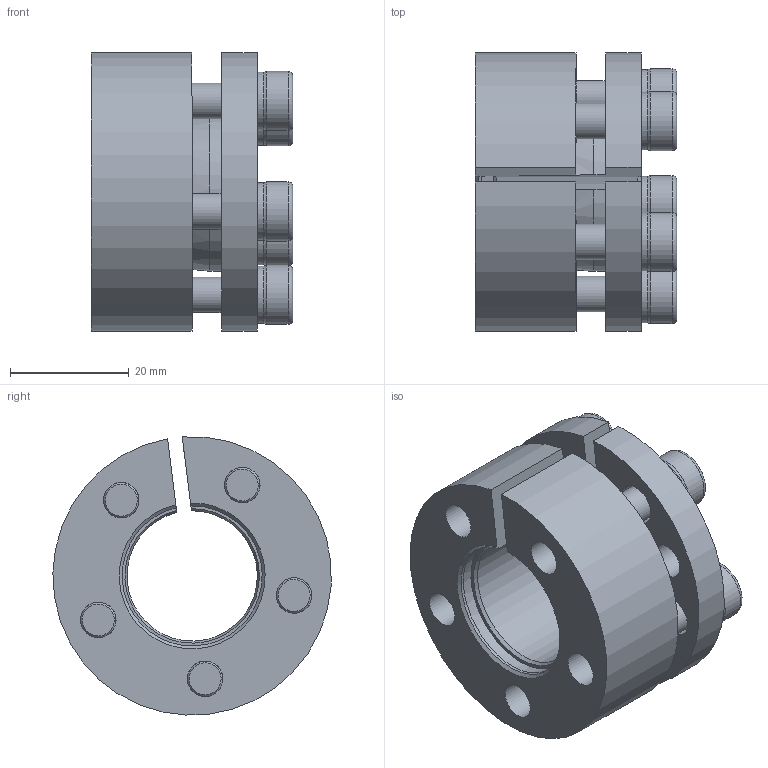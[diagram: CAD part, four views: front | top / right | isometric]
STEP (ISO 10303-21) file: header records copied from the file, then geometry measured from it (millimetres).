
FILE_DESCRIPTION(/* description */ (''),/* implementation_level */ '2;1');
FILE_NAME(/* name */ '06130022.stp',/* time_stamp */ '2023-06-08T08:30:42+02:00',/* author */ ('Paolo.Silvestro'),/* organization */ (''),/* preprocessor_version */ 'ST-DEVELOPER v19.2',/* originating_system */ 'Autodesk Inventor 2023',/* authorisation */ '');
FILE_SCHEMA (('CONFIG_CONTROL_DESIGN'));
Length unit declared in the file: millimetre
Products named in the file (4): 06130022-3d; Anello esterno; Parte1; Vite di bloccaggio M6x20 - Brunita
Assembly tree (7 placements, depth 2):
  06130022-3d
    Anello esterno
    Parte1
    Vite di bloccaggio M6x20 - Brunita  x5
Bounding box: 34 x 46.93 x 46.91 mm (x, y, z)
Volume: 31844.8 mm3; surface area: 18739.8 mm2
Topology: 7 solids, 7 shells, 178 faces, 387 edges, 233 vertices
Faces by surface type: plane 89, cylinder 63, torus 15, cone 11
Full cylindrical faces by diameter (mm): 6 x13, 7 x5, 9.75 x5, 10 x5
Entity records: 2037 total; most frequent: DIRECTION 343, CARTESIAN_POINT 337, ORIENTED_EDGE 294, EDGE_CURVE 147, AXIS2_PLACEMENT_3D 135, VERTEX_POINT 93, EDGE_LOOP 90, LINE 73
